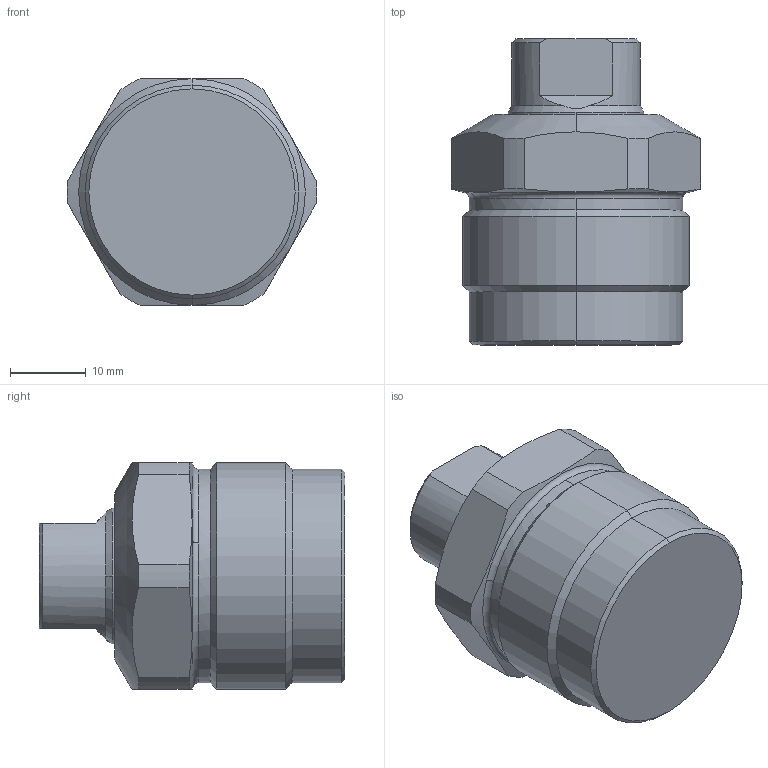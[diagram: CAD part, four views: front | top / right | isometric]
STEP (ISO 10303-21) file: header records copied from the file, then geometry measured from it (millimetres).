
FILE_DESCRIPTION((' '),'2;1');
FILE_NAME( 'TGM06-05.X_T.stp', '2024-08-27T13:43:50', (' '), ('--- Datakit www.datakit.com---'), ' Datakit CrossCadWare V2024.1 Dec 21 2023', 'Mastercam 2025', ' ');
FILE_SCHEMA(('AUTOMOTIVE_DESIGN { 1 0 10303 214 1 1 1 1 }'));
Length unit declared in the file: millimetre
Products named in the file (1): TGM06-05
Bounding box: 32.98 x 40.5 x 30 mm (x, y, z)
Volume: 22255.7 mm3; surface area: 6060.5 mm2
Topology: 2 solids, 2 shells, 56 faces, 138 edges, 88 vertices
Faces by surface type: cylinder 22, plane 16, cone 16, torus 2
Entity records: 1790 total; most frequent: CARTESIAN_POINT 411, DIRECTION 302, ORIENTED_EDGE 276, EDGE_CURVE 138, AXIS2_PLACEMENT_3D 127, VERTEX_POINT 88, CIRCLE 64, EDGE_LOOP 60
